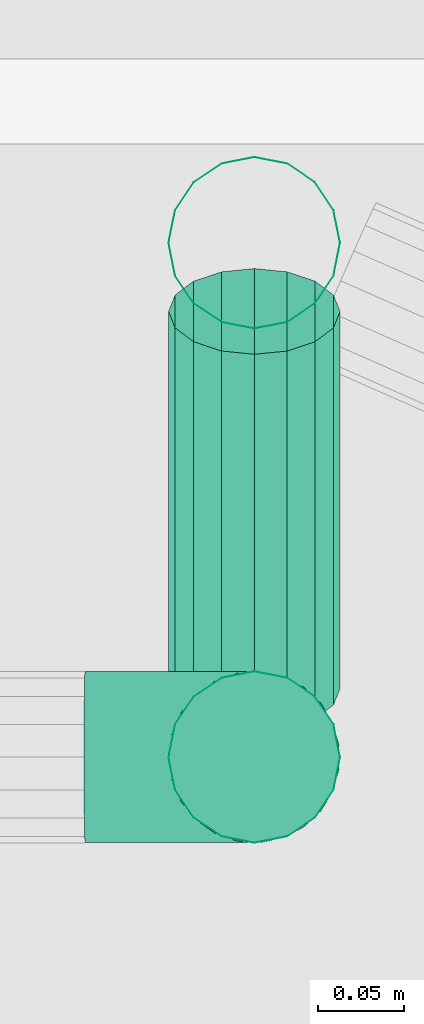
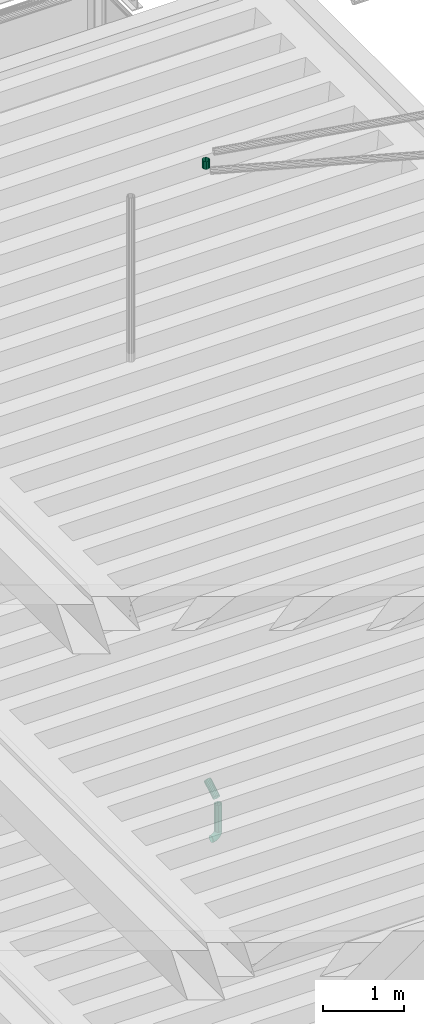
# One storey, part 98 of 108: 3 flow segments, 1 flow fitting.
"""IFC2X3 building model written with IfcOpenShell, lengths in metres."""

import ifcopenshell
import ifcopenshell.guid

model = None  # the IFC model being written
_history = None  # IfcOwnerHistory: only IFC2X3 demands one
_inside = {}  # id of a spatial element -> (the spatial element, [elements in it])
_under = {}  # id of a project, library or spatial element -> (it, [spatial elements below it])
_declared = {}  # id of a project -> (the project, [libraries it declares])
_typed = {}  # id of a type object -> (the type object, [elements of that type])
_made_of = {}  # id of a material, layer set ... -> (it, [elements and type objects made of it])


def new_model(schema):
    """Start an empty IFC model of exactly this schema.

    Asked for "IFC4X3", IfcOpenShell would pick the latest addendum, in which some entities
    have other attributes; the version numbers below select the first issue.
    IFC2X3 requires an IfcOwnerHistory on every rooted entity: one is made here for all.
    """
    global model, _history
    if schema == "IFC4X3":
        model = ifcopenshell.file(schema_version=(4, 3, 0, 0))
    else:
        model = ifcopenshell.file(schema=schema)
    _inside.clear()
    _under.clear()
    _declared.clear()
    _typed.clear()
    _made_of.clear()
    _history = None
    if model.schema == "IFC2X3":
        org = make("IfcOrganization", Name="unknown")
        user = make(
            "IfcPersonAndOrganization",
            ThePerson=make("IfcPerson", FamilyName="unknown"),
            TheOrganization=org,
        )
        app = make(
            "IfcApplication",
            ApplicationDeveloper=org,
            Version="unknown",
            ApplicationFullName="unknown",
            ApplicationIdentifier="unknown",
        )
        _history = make(
            "IfcOwnerHistory",
            OwningUser=user,
            OwningApplication=app,
            ChangeAction="ADDED",
            CreationDate=0,
        )
    return model


def make(cls, **values):
    """One entity of the class cls with the attributes given. An attribute that is None is left unset."""
    return model.create_entity(
        cls, **{name: value for name, value in values.items() if value is not None}
    )


def entity(cls, *values):
    """Any entity or typed value of the class cls, its attributes in the order of the schema. None: left unset."""
    e = model.create_entity(cls)
    for i, value in enumerate(values):
        if value is not None:
            e[i] = value
    return e


def rooted(cls, **values):
    """An entity with a GlobalId (a new one), such as an element, a storey or a relation."""
    return make(cls, GlobalId=ifcopenshell.guid.new(), OwnerHistory=_history, **values)


def si_unit(unit_type, name, prefix=None):
    """IfcSIUnit, for example si_unit("LENGTHUNIT", "METRE", prefix="MILLI")."""
    return make("IfcSIUnit", UnitType=unit_type, Prefix=prefix, Name=name)


def converted_unit(unit_type, name, factor, base, dimensions=None, offset=None):
    """IfcConversionBasedUnit, such as the inch: factor (a typed value) times the base unit."""
    return make(
        "IfcConversionBasedUnit"
        if offset is None
        else "IfcConversionBasedUnitWithOffset",
        ConversionOffset=offset,
        Dimensions=None
        if dimensions is None
        else entity("IfcDimensionalExponents", *dimensions),
        UnitType=unit_type,
        Name=name,
        ConversionFactor=make(
            "IfcMeasureWithUnit", ValueComponent=factor, UnitComponent=base
        ),
    )


def derived_unit(unit_type, elements):
    """IfcDerivedUnit: a product of units, each with its exponent."""
    return make(
        "IfcDerivedUnit",
        Elements=[
            make("IfcDerivedUnitElement", Unit=unit, Exponent=power)
            for unit, power in elements
        ],
        UnitType=unit_type,
    )


def money_unit(currency):
    """IfcMonetaryUnit."""
    return make("IfcMonetaryUnit", Currency=currency)


def assignment(units):
    """IfcUnitAssignment: the units of a project."""
    return None if units is None else make("IfcUnitAssignment", Units=units)


def point(xyz):
    """IfcCartesianPoint."""
    return None if xyz is None else make("IfcCartesianPoint", Coordinates=xyz)


def direction(xyz):
    """IfcDirection."""
    return None if xyz is None else make("IfcDirection", DirectionRatios=xyz)


def frame(location, z_axis=None, x_axis=None):
    """IfcAxis2Placement3D, a coordinate frame: its origin and axes. An axis left out is left unset."""
    return make(
        "IfcAxis2Placement3D",
        Location=point(location),
        Axis=direction(z_axis),
        RefDirection=direction(x_axis),
    )


def origin_with_axes():
    """The frame at (0, 0, 0) with the z axis (0, 0, 1) and the x axis (1, 0, 0) written out."""
    return frame((0.0, 0.0, 0.0), z_axis=(0.0, 0.0, 1.0), x_axis=(1.0, 0.0, 0.0))


def place(relative_to, where):
    """IfcLocalPlacement: puts the frame where relative to a parent placement (None: the world)."""
    return make(
        "IfcLocalPlacement", PlacementRelTo=relative_to, RelativePlacement=where
    )


def context(
    kind, dimensions, precision=None, world=None, true_north=None, identifier=None
):
    """IfcGeometricRepresentationContext, for example the 3D "Model" context."""
    return make(
        "IfcGeometricRepresentationContext",
        ContextIdentifier=identifier,
        ContextType=kind,
        CoordinateSpaceDimension=dimensions,
        Precision=precision,
        WorldCoordinateSystem=world,
        TrueNorth=true_north,
    )


def subcontext(parent, identifier, kind, view, scale=None):
    """IfcGeometricRepresentationSubContext, for example "Body" below "Model"."""
    return make(
        "IfcGeometricRepresentationSubContext",
        ContextIdentifier=identifier,
        ContextType=kind,
        ParentContext=parent,
        TargetScale=scale,
        TargetView=view,
    )


def project(units=None, contexts=None):
    """IfcProject with its units and contexts."""
    return rooted(
        "IfcProject",
        Name="project",
        RepresentationContexts=contexts,
        UnitsInContext=assignment(units),
    )


def spatial(cls, under=None, at=None, **own):
    """A site, building, storey or space (cls), placed at a placement, below another one or the project."""
    s = rooted(cls, ObjectPlacement=at, **own)
    if under is not None:
        _under.setdefault(under.id(), (under, []))[1].append(s)
    return s


def faces_of(points, faces, orient=None, outer=None):
    """IfcFace entities. A face is a list of loops; a loop is a list of indices into points, from 0.

    orient and outer hold one flag for each loop. By default every Orientation is true, the
    first loop of a face is its IfcFaceOuterBound and the others are IfcFaceBound.
    """
    made = []
    for i, loops in enumerate(faces):
        bounds = []
        for j, loop in enumerate(loops):
            is_outer = j == 0 if outer is None else outer[i][j]
            bounds.append(
                make(
                    "IfcFaceOuterBound" if is_outer else "IfcFaceBound",
                    Bound=make("IfcPolyLoop", Polygon=[points[k] for k in loop]),
                    Orientation=True if orient is None else orient[i][j],
                )
            )
        made.append(make("IfcFace", Bounds=bounds))
    return made


def open_shell(faces, orient=None, outer=None):
    """The faces of one IfcOpenShell. surface_model builds it on its shared points."""
    return ("IfcOpenShell", faces, orient, outer)


def faceted_brep(points, faces, orient=None, outer=None, voids=None):
    """IfcFacetedBrep: a solid bounded by flat faces; with voids (closed shells), ...WithVoids."""
    shared = [point(p) for p in points]
    hull = make("IfcClosedShell", CfsFaces=faces_of(shared, faces, orient, outer))
    if voids is None:
        return make("IfcFacetedBrep", Outer=hull)
    return make(
        "IfcFacetedBrepWithVoids",
        Outer=hull,
        Voids=[
            make(cls, CfsFaces=faces_of(shared, fs, o, b)) for cls, fs, o, b in voids
        ],
    )


def surface_model(cls, points, shells):
    """IfcFaceBasedSurfaceModel or IfcShellBasedSurfaceModel (cls): surfaces that need not close."""
    shared = [point(p) for p in points]
    made = [make(c, CfsFaces=faces_of(shared, fs, o, b)) for c, fs, o, b in shells]
    if cls == "IfcFaceBasedSurfaceModel":
        return make(cls, FbsmFaces=made)
    return make(cls, SbsmBoundary=made)


def shape(context_of_items, identifier, shape_type, items):
    """IfcShapeRepresentation: the items that make up one representation, for example the "Body"."""
    return make(
        "IfcShapeRepresentation",
        ContextOfItems=context_of_items,
        RepresentationIdentifier=identifier,
        RepresentationType=shape_type,
        Items=items,
    )


def material(Name=None, Category=None):
    """IfcMaterial."""
    return make("IfcMaterial", Name=Name, Category=Category)


def made_of(thing, what):
    """Note that an element or type object is made of a material, layer set ...; save() writes the relation."""
    if what is not None:
        _made_of.setdefault(what.id(), (what, []))[1].append(thing)
    return thing


def type_object(cls, material=None, **own):
    """A type object (cls), such as IfcWallType, which elements share."""
    return made_of(rooted(cls, **own), material)


def element(
    cls,
    number,
    at=None,
    inside=None,
    cuts=None,
    type_object=None,
    material=None,
    context=None,
    identifier="Body",
    shape_type=None,
    held_by="IfcProductDefinitionShape",
    body=None,
    shapes=None,
    **own,
):
    """One element of the class cls, such as IfcWall. Its Tag is "e" and its number.

    at: its placement. inside: the storey or other place that contains it. cuts: it is an
    opening in that element (IfcRelVoidsElement). A single representation is given by context,
    identifier, shape_type and body (its items); several are given by shapes. held_by: the class
    of the entity that holds the representations. save() writes the other relations.
    """
    e = rooted(cls, Tag="e%d" % number, ObjectPlacement=at, **own)
    if body is not None:
        shapes = [shape(context, identifier, shape_type, body)]
    if shapes is not None:
        e.Representation = make(held_by, Representations=shapes)
    if inside is not None:
        _inside.setdefault(inside.id(), (inside, []))[1].append(e)
    if cuts is not None:
        rooted(
            "IfcRelVoidsElement", RelatingBuildingElement=cuts, RelatedOpeningElement=e
        )
    if type_object is not None:
        _typed.setdefault(type_object.id(), (type_object, []))[1].append(e)
    return made_of(e, material)


def aggregate(whole, parts):
    """IfcRelAggregates: a whole, such as a stair, and the parts it consists of."""
    return rooted("IfcRelAggregates", RelatingObject=whole, RelatedObjects=parts)


def save(model, path):
    """Write the relations noted so far, then the file.

    IfcRelAggregates (storeys below a building ...), IfcRelContainedInSpatialStructure (elements
    in a storey), IfcRelDefinesByType, IfcRelAssociatesMaterial and IfcRelDeclares: one each for
    every whole, place, type object, material and project.
    """
    for whole, parts in _under.values():
        aggregate(whole, parts)
    for where, things in _inside.values():
        rooted(
            "IfcRelContainedInSpatialStructure",
            RelatedElements=things,
            RelatingStructure=where,
        )
    for kind, things in _typed.values():
        rooted("IfcRelDefinesByType", RelatedObjects=things, RelatingType=kind)
    for what, things in _made_of.values():
        rooted("IfcRelAssociatesMaterial", RelatedObjects=things, RelatingMaterial=what)
    for by, libraries in _declared.values():
        rooted("IfcRelDeclares", RelatingContext=by, RelatedDefinitions=libraries)
    model.write(path)


model = new_model("IFC2X3")

# Units and contexts
model_context = context("Model", 3, precision=1e-05, world=origin_with_axes(), true_north=direction((0.0, 1.0)))
body_context = subcontext(model_context, "Body", "Model", "MODEL_VIEW", scale=1.0)
ifc_project = project(units=[si_unit("LENGTHUNIT", "METRE"), si_unit("AREAUNIT", "SQUARE_METRE"), si_unit("VOLUMEUNIT", "CUBIC_METRE"), si_unit("ABSORBEDDOSEUNIT", "GRAY"), si_unit("AMOUNTOFSUBSTANCEUNIT", "MOLE"), si_unit("DOSEEQUIVALENTUNIT", "SIEVERT"), si_unit("ELECTRICCAPACITANCEUNIT", "FARAD"), si_unit("ELECTRICCHARGEUNIT", "COULOMB"), si_unit("ELECTRICCONDUCTANCEUNIT", "SIEMENS"), si_unit("ELECTRICCURRENTUNIT", "AMPERE"), si_unit("ELECTRICRESISTANCEUNIT", "OHM"), si_unit("ELECTRICVOLTAGEUNIT", "VOLT"), si_unit("ENERGYUNIT", "JOULE"), si_unit("FORCEUNIT", "NEWTON"), si_unit("FREQUENCYUNIT", "HERTZ"), si_unit("ILLUMINANCEUNIT", "LUX"), si_unit("INDUCTANCEUNIT", "HENRY"), si_unit("LUMINOUSFLUXUNIT", "LUMEN"), si_unit("LUMINOUSINTENSITYUNIT", "CANDELA"), si_unit("MAGNETICFLUXDENSITYUNIT", "TESLA"), si_unit("MAGNETICFLUXUNIT", "WEBER"), si_unit("MASSUNIT", "GRAM"), converted_unit("PLANEANGLEUNIT", "degree", entity("IfcReal", 0.0174532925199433), si_unit("PLANEANGLEUNIT", "RADIAN"), dimensions=[0, 0, 0, 0, 0, 0, 0]), si_unit("POWERUNIT", "WATT"), si_unit("PRESSUREUNIT", "PASCAL"), si_unit("RADIOACTIVITYUNIT", "BECQUEREL"), si_unit("SOLIDANGLEUNIT", "STERADIAN"), si_unit("THERMODYNAMICTEMPERATUREUNIT", "KELVIN"), si_unit("TIMEUNIT", "SECOND"), derived_unit("ACCELERATIONUNIT", [(si_unit("LENGTHUNIT", "METRE"), 1), (si_unit("TIMEUNIT", "SECOND"), -2)]), derived_unit("ANGULARVELOCITYUNIT", [(converted_unit("PLANEANGLEUNIT", "degree", entity("IfcReal", 0.0174532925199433), si_unit("PLANEANGLEUNIT", "RADIAN"), dimensions=[0, 0, 0, 0, 0, 0, 0]), 1), (si_unit("TIMEUNIT", "SECOND"), -1)]), derived_unit("CURVATUREUNIT", [(converted_unit("PLANEANGLEUNIT", "degree", entity("IfcReal", 0.0174532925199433), si_unit("PLANEANGLEUNIT", "RADIAN"), dimensions=[0, 0, 0, 0, 0, 0, 0]), 1), (si_unit("LENGTHUNIT", "METRE"), -1)]), derived_unit("DYNAMICVISCOSITYUNIT", [(si_unit("PRESSUREUNIT", "PASCAL"), 1), (si_unit("TIMEUNIT", "SECOND"), 1)]), derived_unit("HEATFLUXDENSITYUNIT", [(si_unit("POWERUNIT", "WATT"), 1), (si_unit("LENGTHUNIT", "METRE"), -2)]), derived_unit("HEATINGVALUEUNIT", [(si_unit("ENERGYUNIT", "JOULE"), 1), (si_unit("MASSUNIT", "GRAM"), -1)]), derived_unit("INTEGERCOUNTRATEUNIT", [(si_unit("TIMEUNIT", "SECOND"), -1)]), derived_unit("IONCONCENTRATIONUNIT", [(si_unit("MASSUNIT", "GRAM"), 1), (si_unit("VOLUMEUNIT", "CUBIC_METRE"), -1)]), derived_unit("ISOTHERMALMOISTURECAPACITYUNIT", [(si_unit("VOLUMEUNIT", "CUBIC_METRE"), 1), (si_unit("MASSUNIT", "GRAM"), -1)]), derived_unit("KINEMATICVISCOSITYUNIT", [(si_unit("AREAUNIT", "SQUARE_METRE"), 1), (si_unit("TIMEUNIT", "SECOND"), -1)]), derived_unit("LINEARFORCEUNIT", [(si_unit("FORCEUNIT", "NEWTON"), 1), (si_unit("LENGTHUNIT", "METRE"), -1)]), derived_unit("LINEARMOMENTUNIT", [(si_unit("FORCEUNIT", "NEWTON"), 1), (si_unit("LENGTHUNIT", "METRE"), -1)]), derived_unit("LINEARSTIFFNESSUNIT", [(si_unit("FORCEUNIT", "NEWTON"), 1), (si_unit("LENGTHUNIT", "METRE"), -1)]), derived_unit("LINEARVELOCITYUNIT", [(si_unit("LENGTHUNIT", "METRE"), 1), (si_unit("TIMEUNIT", "SECOND"), -1)]), derived_unit("LUMINOUSINTENSITYDISTRIBUTIONUNIT", [(si_unit("LUMINOUSINTENSITYUNIT", "CANDELA"), 1), (si_unit("LUMINOUSFLUXUNIT", "LUMEN"), -1)]), derived_unit("MASSDENSITYUNIT", [(si_unit("MASSUNIT", "GRAM"), 1), (si_unit("VOLUMEUNIT", "CUBIC_METRE"), -1)]), derived_unit("MASSFLOWRATEUNIT", [(si_unit("MASSUNIT", "GRAM"), 1), (si_unit("TIMEUNIT", "SECOND"), -1)]), derived_unit("MASSPERLENGTHUNIT", [(si_unit("MASSUNIT", "GRAM"), 1), (si_unit("LENGTHUNIT", "METRE"), -1)]), derived_unit("MODULUSOFELASTICITYUNIT", [(si_unit("FORCEUNIT", "NEWTON"), 1), (si_unit("AREAUNIT", "SQUARE_METRE"), -1)]), derived_unit("MODULUSOFLINEARSUBGRADEREACTIONUNIT", [(si_unit("FORCEUNIT", "NEWTON"), 1), (si_unit("LENGTHUNIT", "METRE"), -2)]), derived_unit("MODULUSOFROTATIONALSUBGRADEREACTIONUNIT", [(si_unit("FORCEUNIT", "NEWTON"), 1), (si_unit("LENGTHUNIT", "METRE"), 1)]), derived_unit("MODULUSOFSUBGRADEREACTIONUNIT", [(si_unit("FORCEUNIT", "NEWTON"), 1), (si_unit("VOLUMEUNIT", "CUBIC_METRE"), -1)]), derived_unit("MOISTUREDIFFUSIVITYUNIT", [(si_unit("VOLUMEUNIT", "CUBIC_METRE"), 1), (si_unit("TIMEUNIT", "SECOND"), -1)]), derived_unit("MOLECULARWEIGHTUNIT", [(si_unit("MASSUNIT", "GRAM"), 1), (si_unit("AMOUNTOFSUBSTANCEUNIT", "MOLE"), -1)]), derived_unit("PLANARFORCEUNIT", [(si_unit("FORCEUNIT", "NEWTON"), 1), (si_unit("LENGTHUNIT", "METRE"), -2)]), derived_unit("ROTATIONALFREQUENCYUNIT", [(si_unit("TIMEUNIT", "SECOND"), -1)]), derived_unit("ROTATIONALMASSUNIT", [(si_unit("MASSUNIT", "GRAM"), 1), (si_unit("LENGTHUNIT", "METRE"), 2)]), derived_unit("ROTATIONALSTIFFNESSUNIT", [(si_unit("FORCEUNIT", "NEWTON"), 1), (si_unit("LENGTHUNIT", "METRE"), 1), (converted_unit("PLANEANGLEUNIT", "degree", entity("IfcReal", 0.0174532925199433), si_unit("PLANEANGLEUNIT", "RADIAN"), dimensions=[0, 0, 0, 0, 0, 0, 0]), -1)]), derived_unit("SECTIONAREAINTEGRALUNIT", [(si_unit("LENGTHUNIT", "METRE"), 5)]), derived_unit("SECTIONMODULUSUNIT", [(si_unit("LENGTHUNIT", "METRE"), 3)]), derived_unit("SHEARMODULUSUNIT", [(si_unit("FORCEUNIT", "NEWTON"), 1), (si_unit("AREAUNIT", "SQUARE_METRE"), -1)]), derived_unit("SOUNDPOWERUNIT", [(si_unit("ENERGYUNIT", "JOULE"), 1), (si_unit("TIMEUNIT", "SECOND"), -1)]), derived_unit("SPECIFICHEATCAPACITYUNIT", [(si_unit("FORCEUNIT", "NEWTON"), 1), (si_unit("MASSUNIT", "GRAM"), -1), (si_unit("THERMODYNAMICTEMPERATUREUNIT", "KELVIN"), -1)]), derived_unit("TEMPERATUREGRADIENTUNIT", [(si_unit("THERMODYNAMICTEMPERATUREUNIT", "KELVIN"), 1), (si_unit("LENGTHUNIT", "METRE"), -1)]), derived_unit("THERMALADMITTANCEUNIT", [(si_unit("POWERUNIT", "WATT"), 1), (si_unit("AREAUNIT", "SQUARE_METRE"), -1), (si_unit("THERMODYNAMICTEMPERATUREUNIT", "KELVIN"), -1)]), derived_unit("THERMALCONDUCTANCEUNIT", [(si_unit("POWERUNIT", "WATT"), 1), (si_unit("LENGTHUNIT", "METRE"), -1), (si_unit("THERMODYNAMICTEMPERATUREUNIT", "KELVIN"), -1)]), derived_unit("THERMALEXPANSIONCOEFFICIENTUNIT", [(si_unit("THERMODYNAMICTEMPERATUREUNIT", "KELVIN"), -1)]), derived_unit("THERMALRESISTANCEUNIT", [(si_unit("AREAUNIT", "SQUARE_METRE"), 1), (si_unit("POWERUNIT", "WATT"), -1)]), derived_unit("THERMALTRANSMITTANCEUNIT", [(si_unit("POWERUNIT", "WATT"), 1), (si_unit("AREAUNIT", "SQUARE_METRE"), -1), (si_unit("THERMODYNAMICTEMPERATUREUNIT", "KELVIN"), -1)]), derived_unit("TORQUEUNIT", [(si_unit("FORCEUNIT", "NEWTON"), 1), (si_unit("LENGTHUNIT", "METRE"), 1)]), derived_unit("VAPORPERMEABILITYUNIT", [(si_unit("MASSUNIT", "GRAM"), 1), (si_unit("TIMEUNIT", "SECOND"), -1)]), derived_unit("VOLUMETRICFLOWRATEUNIT", [(si_unit("VOLUMEUNIT", "CUBIC_METRE"), 1), (si_unit("TIMEUNIT", "SECOND"), -1)]), derived_unit("WARPINGCONSTANTUNIT", [(si_unit("LENGTHUNIT", "METRE"), 6)]), derived_unit("WARPINGMOMENTUNIT", [(si_unit("FORCEUNIT", "NEWTON"), 1), (si_unit("LENGTHUNIT", "METRE"), 2)]), money_unit("GBP")], contexts=[model_context])

# Site, building, storey
site_placement = place(None, origin_with_axes())
site = spatial("IfcSite", under=ifc_project, at=site_placement, Name="Site", CompositionType="ELEMENT")
building_placement = place(site_placement, origin_with_axes())
building = spatial("IfcBuilding", under=site, at=building_placement, Name="Building01", CompositionType="ELEMENT")
storey_placement = place(building_placement, origin_with_axes())
storey = spatial("IfcBuildingStorey", under=building, at=storey_placement, Name="GF", CompositionType="ELEMENT", Elevation=0.0)

# Flow segments
ifc_material = material(Name="M_BSUK_ColdWater")
pipe_segment_type = type_object("IfcPipeSegmentType", Name="M-BmpStraightpipe-DefaultPipe", PredefinedType="RIGIDSEGMENT")
flow_segment_1_placement = place(storey_placement, frame((22.076661, 8.416912, 14.65064), z_axis=(1.0, 0.0, 0.0), x_axis=(0.0, 0.0, -1.0)))
element("IfcFlowSegment", 1, at=flow_segment_1_placement, inside=storey, type_object=pipe_segment_type, material=ifc_material, Name="M-BmpStraightpipe-DefaultPipe", ObjectType="M-BmpStraightpipe-DefaultPipe", context=body_context, shape_type="Brep", body=[
    faceted_brep([(0.115318, 0.0, -0.05), (0.0, 0.0, -0.05), (0.0, 0.019134, -0.046194), (0.115318, 0.019134, -0.046194), (0.0, 0.035355, -0.035355), (0.115318, 0.035355, -0.035355), (0.0, 0.046194, -0.019134), (0.115318, 0.046194, -0.019134), (0.0, 0.05, 0.0), (0.115318, 0.05, 0.0), (0.0, 0.046194, 0.019134), (0.115318, 0.046194, 0.019134), (0.0, 0.035355, 0.035355), (0.115318, 0.035355, 0.035355), (0.0, 0.019134, 0.046194), (0.115318, 0.019134, 0.046194), (0.0, 0.0, 0.05), (0.115318, 0.0, 0.05), (0.0, -0.019134, 0.046194), (0.115318, -0.019134, 0.046194), (0.0, -0.035355, 0.035355), (0.115318, -0.035355, 0.035355), (0.0, -0.046194, 0.019134), (0.115318, -0.046194, 0.019134), (0.0, -0.05, 0.0), (0.115318, -0.05, 0.0), (0.0, -0.046194, -0.019134), (0.115318, -0.046194, -0.019134), (0.0, -0.035355, -0.035355), (0.115318, -0.035355, -0.035355), (0.0, -0.019134, -0.046194), (0.115318, -0.019134, -0.046194)], [[[0, 1, 2, 3]], [[3, 2, 4, 5]], [[5, 4, 6, 7]], [[7, 6, 8, 9]], [[9, 8, 10, 11]], [[11, 10, 12, 13]], [[13, 12, 14, 15]], [[15, 14, 16, 17]], [[17, 16, 18, 19]], [[19, 18, 20, 21]], [[21, 20, 22, 23]], [[23, 22, 24, 25]], [[25, 24, 26, 27]], [[27, 26, 28, 29]], [[29, 28, 30, 31]], [[31, 30, 1, 0]]]),
])
flow_segment_2_placement = place(storey_placement, frame((22.076661, 8.116912, 4.751533), z_axis=(-1.0, 0.0, 0.0), x_axis=(0.0, 0.0, 1.0)))
element("IfcFlowSegment", 2, at=flow_segment_2_placement, inside=storey, type_object=pipe_segment_type, material=ifc_material, Name="M-BmpStraightpipe-DefaultPipe", ObjectType="M-BmpStraightpipe-DefaultPipe", context=body_context, shape_type="Brep", body=[
    faceted_brep([(0.400104, 0.0, -0.05), (0.0, 0.0, -0.05), (0.0, 0.019134, -0.046194), (0.400104, 0.019134, -0.046194), (0.0, 0.035355, -0.035355), (0.400104, 0.035355, -0.035355), (0.0, 0.046194, -0.019134), (0.400104, 0.046194, -0.019134), (0.0, 0.05, 0.0), (0.400104, 0.05, 0.0), (0.0, 0.046194, 0.019134), (0.400104, 0.046194, 0.019134), (0.0, 0.035355, 0.035355), (0.400104, 0.035355, 0.035355), (0.0, 0.019134, 0.046194), (0.400104, 0.019134, 0.046194), (0.0, 0.0, 0.05), (0.400104, 0.0, 0.05), (0.0, -0.019134, 0.046194), (0.400104, -0.019134, 0.046194), (0.0, -0.035355, 0.035355), (0.400104, -0.035355, 0.035355), (0.0, -0.046194, 0.019134), (0.400104, -0.046194, 0.019134), (0.0, -0.05, 0.0), (0.400104, -0.05, 0.0), (0.0, -0.046194, -0.019134), (0.400104, -0.046194, -0.019134), (0.0, -0.035355, -0.035355), (0.400104, -0.035355, -0.035355), (0.0, -0.019134, -0.046194), (0.400104, -0.019134, -0.046194)], [[[0, 1, 2, 3]], [[3, 2, 4, 5]], [[5, 4, 6, 7]], [[7, 6, 8, 9]], [[9, 8, 10, 11]], [[11, 10, 12, 13]], [[13, 12, 14, 15]], [[15, 14, 16, 17]], [[17, 16, 18, 19]], [[19, 18, 20, 21]], [[21, 20, 22, 23]], [[23, 22, 24, 25]], [[25, 24, 26, 27]], [[27, 26, 28, 29]], [[29, 28, 30, 31]], [[31, 30, 1, 0]]]),
])
flow_segment_3_placement = place(storey_placement, frame((22.076661, 8.156912, 5.220919), z_axis=(-1.0, 0.0, 0.0), x_axis=(0.0, 0.8660254, 0.5)))
element("IfcFlowSegment", 3, at=flow_segment_3_placement, inside=storey, type_object=pipe_segment_type, material=ifc_material, Name="M-BmpStraightpipe-DefaultPipe", ObjectType="M-BmpStraightpipe-DefaultPipe", context=body_context, shape_type="Brep", body=[
    faceted_brep([(0.254034, 0.0, -0.05), (0.0, 0.0, -0.05), (0.0, 0.019134, -0.046194), (0.254034, 0.019134, -0.046194), (0.0, 0.035355, -0.035355), (0.254034, 0.035355, -0.035355), (0.0, 0.046194, -0.019134), (0.254034, 0.046194, -0.019134), (0.0, 0.05, 0.0), (0.254034, 0.05, 0.0), (0.0, 0.046194, 0.019134), (0.254034, 0.046194, 0.019134), (0.0, 0.035355, 0.035355), (0.254034, 0.035355, 0.035355), (0.0, 0.019134, 0.046194), (0.254034, 0.019134, 0.046194), (0.0, 0.0, 0.05), (0.254034, 0.0, 0.05), (0.0, -0.019134, 0.046194), (0.254034, -0.019134, 0.046194), (0.0, -0.035355, 0.035355), (0.254034, -0.035355, 0.035355), (0.0, -0.046194, 0.019134), (0.254034, -0.046194, 0.019134), (0.0, -0.05, 0.0), (0.254034, -0.05, 0.0), (0.0, -0.046194, -0.019134), (0.254034, -0.046194, -0.019134), (0.0, -0.035355, -0.035355), (0.254034, -0.035355, -0.035355), (0.0, -0.019134, -0.046194), (0.254034, -0.019134, -0.046194)], [[[0, 1, 2, 3]], [[3, 2, 4, 5]], [[5, 4, 6, 7]], [[7, 6, 8, 9]], [[9, 8, 10, 11]], [[11, 10, 12, 13]], [[13, 12, 14, 15]], [[15, 14, 16, 17]], [[17, 16, 18, 19]], [[19, 18, 20, 21]], [[21, 20, 22, 23]], [[23, 22, 24, 25]], [[25, 24, 26, 27]], [[27, 26, 28, 29]], [[29, 28, 30, 31]], [[31, 30, 1, 0]]]),
])

# Flow fitting
pipe_fitting_type = type_object("IfcPipeFittingType", Name="M-BmpElbow-DefaultElbow", PredefinedType="BEND")
flow_fitting_placement = place(storey_placement, frame((22.076661, 8.116912, 4.751533), z_axis=(1.0, 0.0, 0.0), x_axis=(0.0, 0.0, -1.0)))
element("IfcFlowFitting", 4, at=flow_fitting_placement, inside=storey, type_object=pipe_fitting_type, material=ifc_material, Name="M-BmpElbow-DefaultElbow", ObjectType="M-BmpElbow-DefaultElbow", context=body_context, shape_type="SurfaceModel", body=[
    surface_model("IfcShellBasedSurfaceModel", [(0.008048, -0.01349, -0.048774), (0.0, -0.01349, -0.048146), (0.0, 0.0, -0.05), (0.00776, 0.0, -0.050606), (0.0159, -0.01349, -0.050644), (0.015332, 0.0, -0.052409), (0.023368, -0.01349, -0.05371), (0.022532, 0.0, -0.055365), (0.030269, -0.01349, -0.057897), (0.029187, 0.0, -0.059403), (0.036437, -0.01349, -0.063105), (0.035134, 0.0, -0.064424), (0.041721, -0.01349, -0.069207), (0.040229, 0.0, -0.070308), (0.045995, -0.01349, -0.076055), (0.04435, 0.0, -0.076912), (0.049154, -0.01349, -0.083484), (0.047396, 0.0, -0.084074), (0.051121, -0.01349, -0.091313), (0.049293, 0.0, -0.091623), (0.05185, -0.01349, -0.099352), (0.049996, 0.0, -0.099375), (0.00889, -0.025979, -0.043415), (0.0, -0.025979, -0.042721), (0.017564, -0.025979, -0.04548), (0.025813, -0.025979, -0.048867), (0.033436, -0.025979, -0.053493), (0.040248, -0.025979, -0.059245), (0.046086, -0.025979, -0.065986), (0.050807, -0.025979, -0.07355), (0.054296, -0.025979, -0.081756), (0.056469, -0.025979, -0.090404), (0.057275, -0.025979, -0.099284), (0.010223, -0.036542, -0.034926), (0.0, -0.036542, -0.034128), (0.020199, -0.036542, -0.037301), (0.029685, -0.036542, -0.041196), (0.038452, -0.036542, -0.046515), (0.046287, -0.036542, -0.053131), (0.053, -0.036542, -0.060883), (0.058429, -0.036542, -0.069582), (0.062442, -0.036542, -0.079019), (0.064941, -0.036542, -0.088964), (0.065867, -0.036542, -0.099177), (0.01195, -0.044394, -0.023936), (0.0, -0.044394, -0.023003), (0.02361, -0.044394, -0.026712), (0.034698, -0.044394, -0.031265), (0.044946, -0.044394, -0.037483), (0.054104, -0.044394, -0.045216), (0.061951, -0.044394, -0.054277), (0.068296, -0.044394, -0.064445), (0.072987, -0.044394, -0.075476), (0.075908, -0.044394, -0.0871), (0.076991, -0.044394, -0.099038), (0.013941, -0.048954, -0.011261), (0.0, -0.048954, -0.010173), (0.027544, -0.048954, -0.0145), (0.04048, -0.048954, -0.019811), (0.052435, -0.048954, -0.027065), (0.063119, -0.048954, -0.036087), (0.072274, -0.048954, -0.046657), (0.079677, -0.048954, -0.058521), (0.085149, -0.048954, -0.071389), (0.088558, -0.048954, -0.084951), (0.08982, -0.048954, -0.098877), (0.01605, -0.049883, 0.002159), (0.0, -0.049883, 0.003412), (0.03171, -0.049883, -0.00157), (0.046602, -0.049883, -0.007684), (0.060365, -0.049883, -0.016035), (0.072665, -0.049883, -0.026421), (0.083204, -0.049883, -0.03859), (0.091727, -0.049883, -0.052247), (0.098026, -0.049883, -0.067062), (0.101951, -0.049883, -0.082675), (0.103404, -0.049883, -0.098707), (0.018119, -0.047113, 0.015329), (0.0, -0.047113, 0.016744), (0.035798, -0.047113, 0.01112), (0.05261, -0.047113, 0.004218), (0.068147, -0.047113, -0.00521), (0.082033, -0.047113, -0.016935), (0.093931, -0.047113, -0.030673), (0.103552, -0.047113, -0.046091), (0.110664, -0.047113, -0.062816), (0.115094, -0.047113, -0.080441), (0.116735, -0.047113, -0.098541), (0.019995, -0.040848, 0.027273), (0.0, -0.040848, 0.028834), (0.039505, -0.040848, 0.022628), (0.058059, -0.040848, 0.01501), (0.075205, -0.040848, 0.004606), (0.090528, -0.040848, -0.008333), (0.103658, -0.040848, -0.023494), (0.114276, -0.040848, -0.040508), (0.122124, -0.040848, -0.058965), (0.127013, -0.040848, -0.078416), (0.128824, -0.040848, -0.09839), (0.021539, -0.031554, 0.037104), (0.0, -0.031554, 0.038786), (0.042557, -0.031554, 0.0321), (0.062543, -0.031554, 0.023894), (0.081014, -0.031554, 0.012686), (0.097521, -0.031554, -0.001252), (0.111665, -0.031554, -0.017584), (0.123103, -0.031554, -0.035913), (0.131557, -0.031554, -0.055795), (0.136824, -0.031554, -0.076749), (0.138775, -0.031554, -0.098265), (0.022638, -0.01992, 0.044093), (0.0, -0.01992, 0.045861), (0.044726, -0.01992, 0.038834), (0.065732, -0.01992, 0.03021), (0.085144, -0.01992, 0.018431), (0.102492, -0.01992, 0.003782), (0.117357, -0.01992, -0.013383), (0.129378, -0.01992, -0.032646), (0.138264, -0.01992, -0.053542), (0.143799, -0.01992, -0.075563), (0.145849, -0.01992, -0.098177), (0.023208, -0.006808, 0.047722), (0.0, -0.006808, 0.049534), (0.045853, -0.006808, 0.042331), (0.067387, -0.006808, 0.03349), (0.087288, -0.006808, 0.021414), (0.105074, -0.006808, 0.006395), (0.120313, -0.006808, -0.011201), (0.132637, -0.006808, -0.03095), (0.141746, -0.006808, -0.052372), (0.147421, -0.006808, -0.074948), (0.149523, -0.006808, -0.098131), (0.023208, 0.006808, 0.047722), (0.0, 0.006808, 0.049534), (0.045853, 0.006808, 0.042331), (0.067387, 0.006808, 0.03349), (0.087288, 0.006808, 0.021414), (0.105074, 0.006808, 0.006395), (0.120313, 0.006808, -0.011201), (0.132637, 0.006808, -0.03095), (0.141746, 0.006808, -0.052372), (0.147421, 0.006808, -0.074948), (0.149523, 0.006808, -0.098131), (0.022638, 0.01992, 0.044093), (0.0, 0.01992, 0.045861), (0.044726, 0.01992, 0.038834), (0.065732, 0.01992, 0.03021), (0.085144, 0.01992, 0.018431), (0.102492, 0.01992, 0.003782), (0.117357, 0.01992, -0.013383), (0.129378, 0.01992, -0.032646), (0.138264, 0.01992, -0.053542), (0.143799, 0.01992, -0.075563), (0.145849, 0.01992, -0.098177), (0.021539, 0.031554, 0.037104), (0.0, 0.031554, 0.038786), (0.042557, 0.031554, 0.0321), (0.062543, 0.031554, 0.023894), (0.081014, 0.031554, 0.012686), (0.097521, 0.031554, -0.001252), (0.111665, 0.031554, -0.017584), (0.123103, 0.031554, -0.035913), (0.131557, 0.031554, -0.055795), (0.136824, 0.031554, -0.076749), (0.138775, 0.031554, -0.098265), (0.019995, 0.040848, 0.027273), (0.0, 0.040848, 0.028834), (0.039505, 0.040848, 0.022628), (0.058059, 0.040848, 0.01501), (0.075205, 0.040848, 0.004606), (0.090528, 0.040848, -0.008333), (0.103658, 0.040848, -0.023494), (0.114276, 0.040848, -0.040508), (0.122124, 0.040848, -0.058965), (0.127013, 0.040848, -0.078416), (0.128824, 0.040848, -0.09839), (0.018119, 0.047113, 0.015329), (0.0, 0.047113, 0.016744), (0.035798, 0.047113, 0.01112), (0.05261, 0.047113, 0.004218), (0.068147, 0.047113, -0.00521), (0.082033, 0.047113, -0.016935), (0.093931, 0.047113, -0.030673), (0.103552, 0.047113, -0.046091), (0.110664, 0.047113, -0.062816), (0.115094, 0.047113, -0.080441), (0.116735, 0.047113, -0.098541), (0.01605, 0.049883, 0.002159), (0.0, 0.049883, 0.003412), (0.03171, 0.049883, -0.00157), (0.046602, 0.049883, -0.007684), (0.060365, 0.049883, -0.016035), (0.072665, 0.049883, -0.026421), (0.083204, 0.049883, -0.03859), (0.091727, 0.049883, -0.052247), (0.098026, 0.049883, -0.067062), (0.101951, 0.049883, -0.082675), (0.103404, 0.049883, -0.098707), (0.013941, 0.048954, -0.011261), (0.0, 0.048954, -0.010173), (0.027544, 0.048954, -0.0145), (0.04048, 0.048954, -0.019811), (0.052435, 0.048954, -0.027065), (0.063119, 0.048954, -0.036087), (0.072274, 0.048954, -0.046657), (0.079677, 0.048954, -0.058521), (0.085149, 0.048954, -0.071389), (0.088558, 0.048954, -0.084951), (0.08982, 0.048954, -0.098877), (0.01195, 0.044394, -0.023936), (0.0, 0.044394, -0.023003), (0.02361, 0.044394, -0.026712), (0.034698, 0.044394, -0.031265), (0.044946, 0.044394, -0.037483), (0.054104, 0.044394, -0.045216), (0.061951, 0.044394, -0.054277), (0.068296, 0.044394, -0.064445), (0.072987, 0.044394, -0.075476), (0.075908, 0.044394, -0.0871), (0.076991, 0.044394, -0.099038), (0.010223, 0.036542, -0.034926), (0.0, 0.036542, -0.034128), (0.020199, 0.036542, -0.037301), (0.029685, 0.036542, -0.041196), (0.038452, 0.036542, -0.046515), (0.046287, 0.036542, -0.053131), (0.053, 0.036542, -0.060883), (0.058429, 0.036542, -0.069582), (0.062442, 0.036542, -0.079019), (0.064941, 0.036542, -0.088964), (0.065867, 0.036542, -0.099177), (0.00889, 0.025979, -0.043415), (0.0, 0.025979, -0.042721), (0.017564, 0.025979, -0.04548), (0.025813, 0.025979, -0.048867), (0.033436, 0.025979, -0.053493), (0.040248, 0.025979, -0.059245), (0.046086, 0.025979, -0.065986), (0.050807, 0.025979, -0.07355), (0.054296, 0.025979, -0.081756), (0.056469, 0.025979, -0.090404), (0.057275, 0.025979, -0.099284), (0.008048, 0.01349, -0.048774), (0.0, 0.01349, -0.048146), (0.0159, 0.01349, -0.050644), (0.023368, 0.01349, -0.05371), (0.030269, 0.01349, -0.057897), (0.036437, 0.01349, -0.063105), (0.041721, 0.01349, -0.069207), (0.045995, 0.01349, -0.076055), (0.049154, 0.01349, -0.083484), (0.051121, 0.01349, -0.091313), (0.05185, 0.01349, -0.099352)], [open_shell([[[0, 1, 2, 3]], [[4, 0, 3, 5]], [[6, 4, 5, 7]], [[8, 6, 7, 9]], [[10, 8, 9, 11]], [[12, 10, 11, 13]], [[14, 12, 13, 15]], [[16, 14, 15, 17]], [[18, 16, 17, 19]], [[20, 18, 19, 21]], [[22, 23, 1, 0]], [[24, 22, 0, 4]], [[25, 24, 4, 6]], [[26, 25, 6, 8]], [[27, 26, 8, 10]], [[28, 27, 10, 12]], [[29, 28, 12, 14]], [[30, 29, 14, 16]], [[31, 30, 16, 18]], [[32, 31, 18, 20]], [[33, 34, 23, 22]], [[35, 33, 22, 24]], [[36, 35, 24, 25]], [[37, 36, 25, 26]], [[38, 37, 26, 27]], [[39, 38, 27, 28]], [[40, 39, 28, 29]], [[41, 40, 29, 30]], [[42, 41, 30, 31]], [[43, 42, 31, 32]], [[44, 45, 34, 33]], [[46, 44, 33, 35]], [[47, 46, 35, 36]], [[48, 47, 36, 37]], [[49, 48, 37, 38]], [[50, 49, 38, 39]], [[51, 50, 39, 40]], [[52, 51, 40, 41]], [[53, 52, 41, 42]], [[54, 53, 42, 43]], [[55, 56, 45, 44]], [[57, 55, 44, 46]], [[58, 57, 46, 47]], [[59, 58, 47, 48]], [[60, 59, 48, 49]], [[61, 60, 49, 50]], [[62, 61, 50, 51]], [[63, 62, 51, 52]], [[64, 63, 52, 53]], [[65, 64, 53, 54]], [[66, 67, 56, 55]], [[68, 66, 55, 57]], [[69, 68, 57, 58]], [[70, 69, 58, 59]], [[71, 70, 59, 60]], [[72, 71, 60, 61]], [[73, 72, 61, 62]], [[74, 73, 62, 63]], [[75, 74, 63, 64]], [[76, 75, 64, 65]], [[77, 78, 67, 66]], [[79, 77, 66, 68]], [[80, 79, 68, 69]], [[81, 80, 69, 70]], [[82, 81, 70, 71]], [[83, 82, 71, 72]], [[84, 83, 72, 73]], [[85, 84, 73, 74]], [[86, 85, 74, 75]], [[87, 86, 75, 76]], [[88, 89, 78, 77]], [[90, 88, 77, 79]], [[91, 90, 79, 80]], [[92, 91, 80, 81]], [[93, 92, 81, 82]], [[94, 93, 82, 83]], [[95, 94, 83, 84]], [[96, 95, 84, 85]], [[97, 96, 85, 86]], [[98, 97, 86, 87]], [[99, 100, 89, 88]], [[101, 99, 88, 90]], [[102, 101, 90, 91]], [[103, 102, 91, 92]], [[104, 103, 92, 93]], [[105, 104, 93, 94]], [[106, 105, 94, 95]], [[107, 106, 95, 96]], [[108, 107, 96, 97]], [[109, 108, 97, 98]], [[110, 111, 100, 99]], [[112, 110, 99, 101]], [[113, 112, 101, 102]], [[114, 113, 102, 103]], [[115, 114, 103, 104]], [[116, 115, 104, 105]], [[117, 116, 105, 106]], [[118, 117, 106, 107]], [[119, 118, 107, 108]], [[120, 119, 108, 109]], [[121, 122, 111, 110]], [[123, 121, 110, 112]], [[124, 123, 112, 113]], [[125, 124, 113, 114]], [[126, 125, 114, 115]], [[127, 126, 115, 116]], [[128, 127, 116, 117]], [[129, 128, 117, 118]], [[130, 129, 118, 119]], [[131, 130, 119, 120]], [[132, 133, 122, 121]], [[134, 132, 121, 123]], [[135, 134, 123, 124]], [[136, 135, 124, 125]], [[137, 136, 125, 126]], [[138, 137, 126, 127]], [[139, 138, 127, 128]], [[140, 139, 128, 129]], [[141, 140, 129, 130]], [[142, 141, 130, 131]], [[143, 144, 133, 132]], [[145, 143, 132, 134]], [[146, 145, 134, 135]], [[147, 146, 135, 136]], [[148, 147, 136, 137]], [[149, 148, 137, 138]], [[150, 149, 138, 139]], [[151, 150, 139, 140]], [[152, 151, 140, 141]], [[153, 152, 141, 142]], [[154, 155, 144, 143]], [[156, 154, 143, 145]], [[157, 156, 145, 146]], [[158, 157, 146, 147]], [[159, 158, 147, 148]], [[160, 159, 148, 149]], [[161, 160, 149, 150]], [[162, 161, 150, 151]], [[163, 162, 151, 152]], [[164, 163, 152, 153]], [[165, 166, 155, 154]], [[167, 165, 154, 156]], [[168, 167, 156, 157]], [[169, 168, 157, 158]], [[170, 169, 158, 159]], [[171, 170, 159, 160]], [[172, 171, 160, 161]], [[173, 172, 161, 162]], [[174, 173, 162, 163]], [[175, 174, 163, 164]], [[176, 177, 166, 165]], [[178, 176, 165, 167]], [[179, 178, 167, 168]], [[180, 179, 168, 169]], [[181, 180, 169, 170]], [[182, 181, 170, 171]], [[183, 182, 171, 172]], [[184, 183, 172, 173]], [[185, 184, 173, 174]], [[186, 185, 174, 175]], [[187, 188, 177, 176]], [[189, 187, 176, 178]], [[190, 189, 178, 179]], [[191, 190, 179, 180]], [[192, 191, 180, 181]], [[193, 192, 181, 182]], [[194, 193, 182, 183]], [[195, 194, 183, 184]], [[196, 195, 184, 185]], [[197, 196, 185, 186]], [[198, 199, 188, 187]], [[200, 198, 187, 189]], [[201, 200, 189, 190]], [[202, 201, 190, 191]], [[203, 202, 191, 192]], [[204, 203, 192, 193]], [[205, 204, 193, 194]], [[206, 205, 194, 195]], [[207, 206, 195, 196]], [[208, 207, 196, 197]], [[209, 210, 199, 198]], [[211, 209, 198, 200]], [[212, 211, 200, 201]], [[213, 212, 201, 202]], [[214, 213, 202, 203]], [[215, 214, 203, 204]], [[216, 215, 204, 205]], [[217, 216, 205, 206]], [[218, 217, 206, 207]], [[219, 218, 207, 208]], [[220, 221, 210, 209]], [[222, 220, 209, 211]], [[223, 222, 211, 212]], [[224, 223, 212, 213]], [[225, 224, 213, 214]], [[226, 225, 214, 215]], [[227, 226, 215, 216]], [[228, 227, 216, 217]], [[229, 228, 217, 218]], [[230, 229, 218, 219]], [[231, 232, 221, 220]], [[233, 231, 220, 222]], [[234, 233, 222, 223]], [[235, 234, 223, 224]], [[236, 235, 224, 225]], [[237, 236, 225, 226]], [[238, 237, 226, 227]], [[239, 238, 227, 228]], [[240, 239, 228, 229]], [[241, 240, 229, 230]], [[242, 243, 232, 231]], [[244, 242, 231, 233]], [[245, 244, 233, 234]], [[246, 245, 234, 235]], [[247, 246, 235, 236]], [[248, 247, 236, 237]], [[249, 248, 237, 238]], [[250, 249, 238, 239]], [[251, 250, 239, 240]], [[252, 251, 240, 241]], [[3, 2, 243, 242]], [[5, 3, 242, 244]], [[7, 5, 244, 245]], [[9, 7, 245, 246]], [[11, 9, 246, 247]], [[13, 11, 247, 248]], [[15, 13, 248, 249]], [[17, 15, 249, 250]], [[19, 17, 250, 251]], [[21, 19, 251, 252]]])]),
])

save(model, "model.ifc")
